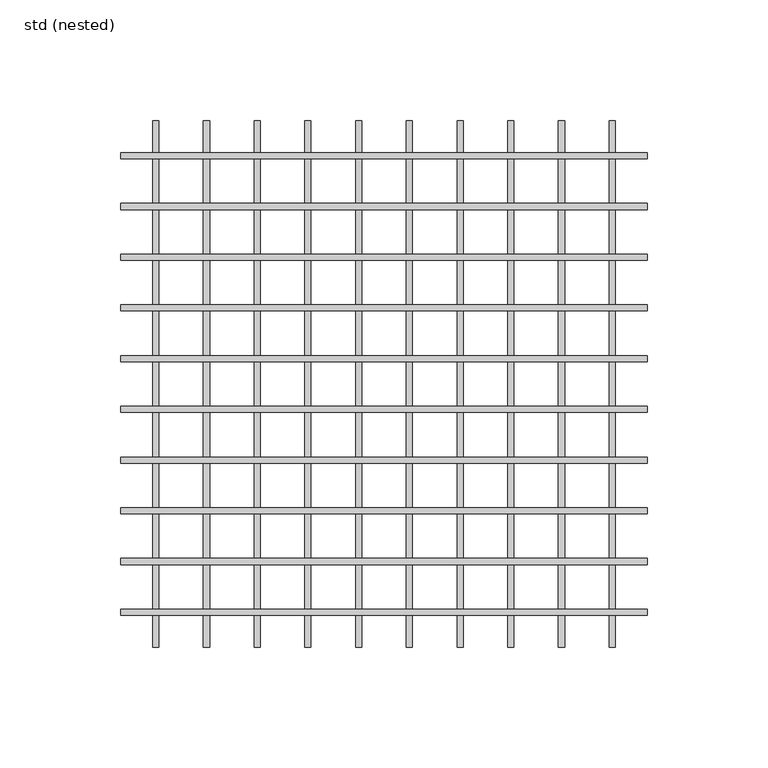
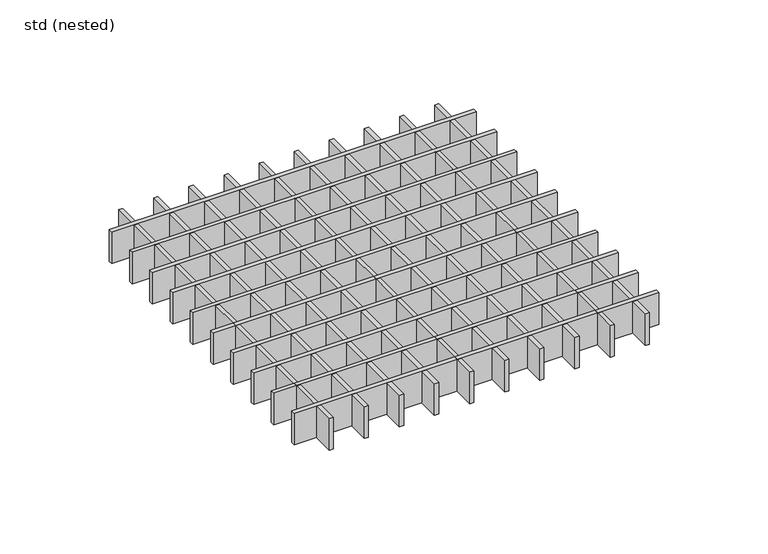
"""IFC4 building model written with IfcOpenShell, lengths in millimetres: sanitary terminal geometry, ZZZ_do not use_PF_ST_UN_square grating for hygienic gully_ACO : std (nested)."""

from ifc_helpers import new_model, si_unit, frame, origin, place, context, project, spatial, polyline, outline, extrude, source, transform, mapped, element, save


def std_nested_9b02ec69(model_context):
    return source(origin(), model_context, "Body", "SweptSolid", [
        extrude(outline(polyline([(-109.0, -95.75), (-109.0, -93.25), (109.0, -93.25), (109.0, -95.75), (-109.0, -95.75)])), frame((0.0, 0.0, -20.0), z_axis=(0.0, 0.0, 1.0), x_axis=(1.0, 0.0, 0.0)), (0.0, 0.0, 1.0), 20.0),
        extrude(outline(polyline([(-109.0, -74.75), (-109.0, -72.25), (109.0, -72.25), (109.0, -74.75), (-109.0, -74.75)])), frame((0.0, 0.0, -20.0), z_axis=(0.0, 0.0, 1.0), x_axis=(1.0, 0.0, 0.0)), (0.0, 0.0, 1.0), 20.0),
        extrude(outline(polyline([(-109.0, -53.75), (-109.0, -51.25), (109.0, -51.25), (109.0, -53.75), (-109.0, -53.75)])), frame((0.0, 0.0, -20.0), z_axis=(0.0, 0.0, 1.0), x_axis=(1.0, 0.0, 0.0)), (0.0, 0.0, 1.0), 20.0),
        extrude(outline(polyline([(-109.0, -32.75), (-109.0, -30.25), (109.0, -30.25), (109.0, -32.75), (-109.0, -32.75)])), frame((0.0, 0.0, -20.0), z_axis=(0.0, 0.0, 1.0), x_axis=(1.0, 0.0, 0.0)), (0.0, 0.0, 1.0), 20.0),
        extrude(outline(polyline([(-109.0, 93.25), (-109.0, 95.75), (109.0, 95.75), (109.0, 93.25), (-109.0, 93.25)])), frame((0.0, 0.0, -20.0), z_axis=(0.0, 0.0, 1.0), x_axis=(1.0, 0.0, 0.0)), (0.0, 0.0, 1.0), 20.0),
        extrude(outline(polyline([(-109.0, 72.25), (-109.0, 74.75), (109.0, 74.75), (109.0, 72.25), (-109.0, 72.25)])), frame((0.0, 0.0, -20.0), z_axis=(0.0, 0.0, 1.0), x_axis=(1.0, 0.0, 0.0)), (0.0, 0.0, 1.0), 20.0),
        extrude(outline(polyline([(-109.0, 51.25), (-109.0, 53.75), (109.0, 53.75), (109.0, 51.25), (-109.0, 51.25)])), frame((0.0, 0.0, -20.0), z_axis=(0.0, 0.0, 1.0), x_axis=(1.0, 0.0, 0.0)), (0.0, 0.0, 1.0), 20.0),
        extrude(outline(polyline([(-109.0, 30.25), (-109.0, 32.75), (109.0, 32.75), (109.0, 30.25), (-109.0, 30.25)])), frame((0.0, 0.0, -20.0), z_axis=(0.0, 0.0, 1.0), x_axis=(1.0, 0.0, 0.0)), (0.0, 0.0, 1.0), 20.0),
        extrude(outline(polyline([(-109.0, 9.25), (-109.0, 11.75), (109.0, 11.75), (109.0, 9.25), (-109.0, 9.25)])), frame((0.0, 0.0, -20.0), z_axis=(0.0, 0.0, 1.0), x_axis=(1.0, 0.0, 0.0)), (0.0, 0.0, 1.0), 20.0),
        extrude(outline(polyline([(-109.0, -11.75), (-109.0, -9.25), (109.0, -9.25), (109.0, -11.75), (-109.0, -11.75)])), frame((0.0, 0.0, -20.0), z_axis=(0.0, 0.0, 1.0), x_axis=(1.0, 0.0, 0.0)), (0.0, 0.0, 1.0), 20.0),
        extrude(outline(polyline([(-93.25, -109.0), (-95.75, -109.0), (-95.75, 109.0), (-93.25, 109.0), (-93.25, -109.0)])), frame((0.0, 0.0, -20.0), z_axis=(0.0, 0.0, 1.0), x_axis=(1.0, 0.0, 0.0)), (0.0, 0.0, 1.0), 20.0),
        extrude(outline(polyline([(-72.25, -109.0), (-74.75, -109.0), (-74.75, 109.0), (-72.25, 109.0), (-72.25, -109.0)])), frame((0.0, 0.0, -20.0), z_axis=(0.0, 0.0, 1.0), x_axis=(1.0, 0.0, 0.0)), (0.0, 0.0, 1.0), 20.0),
        extrude(outline(polyline([(-51.25, -109.0), (-53.75, -109.0), (-53.75, 109.0), (-51.25, 109.0), (-51.25, -109.0)])), frame((0.0, 0.0, -20.0), z_axis=(0.0, 0.0, 1.0), x_axis=(1.0, 0.0, 0.0)), (0.0, 0.0, 1.0), 20.0),
        extrude(outline(polyline([(-30.25, -109.0), (-32.75, -109.0), (-32.75, 109.0), (-30.25, 109.0), (-30.25, -109.0)])), frame((0.0, 0.0, -20.0), z_axis=(0.0, 0.0, 1.0), x_axis=(1.0, 0.0, 0.0)), (0.0, 0.0, 1.0), 20.0),
        extrude(outline(polyline([(95.75, -109.0), (93.25, -109.0), (93.25, 109.0), (95.75, 109.0), (95.75, -109.0)])), frame((0.0, 0.0, -20.0), z_axis=(0.0, 0.0, 1.0), x_axis=(1.0, 0.0, 0.0)), (0.0, 0.0, 1.0), 20.0),
        extrude(outline(polyline([(74.75, -109.0), (72.25, -109.0), (72.25, 109.0), (74.75, 109.0), (74.75, -109.0)])), frame((0.0, 0.0, -20.0), z_axis=(0.0, 0.0, 1.0), x_axis=(1.0, 0.0, 0.0)), (0.0, 0.0, 1.0), 20.0),
        extrude(outline(polyline([(53.75, -109.0), (51.25, -109.0), (51.25, 109.0), (53.75, 109.0), (53.75, -109.0)])), frame((0.0, 0.0, -20.0), z_axis=(0.0, 0.0, 1.0), x_axis=(1.0, 0.0, 0.0)), (0.0, 0.0, 1.0), 20.0),
        extrude(outline(polyline([(32.75, -109.0), (30.25, -109.0), (30.25, 109.0), (32.75, 109.0), (32.75, -109.0)])), frame((0.0, 0.0, -20.0), z_axis=(0.0, 0.0, 1.0), x_axis=(1.0, 0.0, 0.0)), (0.0, 0.0, 1.0), 20.0),
        extrude(outline(polyline([(-9.25, -109.0), (-11.75, -109.0), (-11.75, 109.0), (-9.25, 109.0), (-9.25, -109.0)])), frame((0.0, 0.0, -20.0), z_axis=(0.0, 0.0, 1.0), x_axis=(1.0, 0.0, 0.0)), (0.0, 0.0, 1.0), 20.0),
        extrude(outline(polyline([(11.75, -109.0), (9.25, -109.0), (9.25, 109.0), (11.75, 109.0), (11.75, -109.0)])), frame((0.0, 0.0, -20.0), z_axis=(0.0, 0.0, 1.0), x_axis=(1.0, 0.0, 0.0)), (0.0, 0.0, 1.0), 20.0),
    ])


if __name__ == "__main__":
    model = new_model("IFC4")
    model_context = context("Model", 3, world=origin())
    ifc_project = project(units=[si_unit("LENGTHUNIT", "METRE", prefix="MILLI")], contexts=[model_context])
    site = spatial("IfcSite", under=ifc_project)
    building = spatial("IfcBuilding", under=site)
    placement = place(None, origin())
    std_nested_shape = std_nested_9b02ec69(model_context)
    element("IfcSanitaryTerminal", 1, ObjectType="ZZZ_do not use_PF_ST_UN_square grating for hygienic gully_ACO : std (nested)", at=placement, inside=building, context=model_context, shape_type="MappedRepresentation", body=[
        mapped(std_nested_shape, transform((0.0, 0.0, 0.0), x_axis=(1.0, 0.0, 0.0), y_axis=(0.0, 1.0, 0.0), z_axis=(0.0, 0.0, 1.0))),
    ])
    save(model, "model.ifc")
